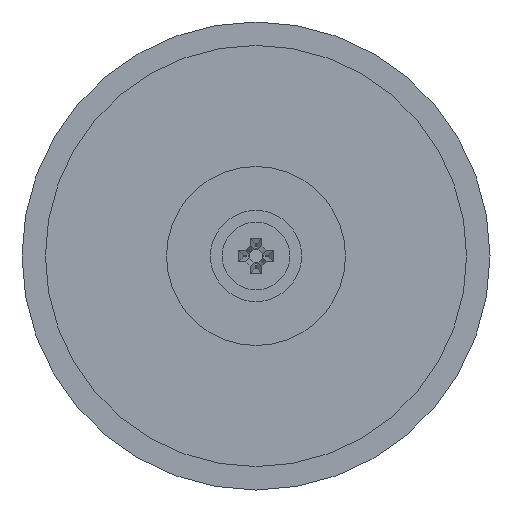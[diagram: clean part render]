
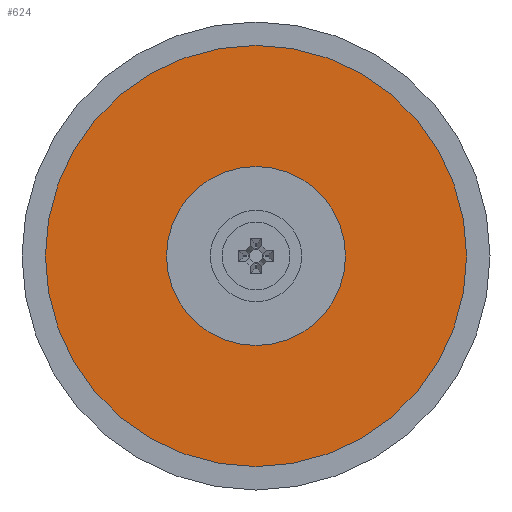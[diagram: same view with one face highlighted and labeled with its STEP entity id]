
A CAD part, front view. The second image highlights one B-rep face of the part: STEP entity #624.
In plain terms, the highlighted planar face has unit normal (0, -1, 0).
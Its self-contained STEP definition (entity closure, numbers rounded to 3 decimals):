
#230 = ORIENTED_EDGE ( 'NONE', *, *, #1284, .F. ) ;
#231 = ORIENTED_EDGE ( 'NONE', *, *, #984, .T. ) ;
#238 = ORIENTED_EDGE ( 'NONE', *, *, #1279, .T. ) ;
#270 = ORIENTED_EDGE ( 'NONE', *, *, #1175, .F. ) ;
#287 = VERTEX_POINT ( 'NONE', #366 ) ;
#288 = VERTEX_POINT ( 'NONE', #342 ) ;
#289 = VERTEX_POINT ( 'NONE', #345 ) ;
#317 = CARTESIAN_POINT ( 'NONE',  ( 7.65, 0., 0. ) ) ;
#342 = CARTESIAN_POINT ( 'NONE',  ( -7.65, 0., 0. ) ) ;
#345 = CARTESIAN_POINT ( 'NONE',  ( 18., 0., 0. ) ) ;
#366 = CARTESIAN_POINT ( 'NONE',  ( -18., 0., 0. ) ) ;
#378 = EDGE_LOOP ( 'NONE', ( #270, #230 ) ) ;
#386 = EDGE_LOOP ( 'NONE', ( #238, #231 ) ) ;
#548 = VERTEX_POINT ( 'NONE', #317 ) ;
#566 = FACE_BOUND ( 'NONE', #386, .T. ) ;
#570 = FACE_OUTER_BOUND ( 'NONE', #378, .T. ) ;
#624 = ADVANCED_FACE ( 'NONE', ( #566, #570 ), #1089, .T. ) ;
#666 = CARTESIAN_POINT ( 'NONE',  ( 0., 0., 0. ) ) ;
#667 = DIRECTION ( 'NONE',  ( 0., 1., 0. ) ) ;
#668 = DIRECTION ( 'NONE',  ( -1., 0., 0. ) ) ;
#777 = AXIS2_PLACEMENT_3D ( 'NONE', #1057, #1100, #1097 ) ;
#857 = CARTESIAN_POINT ( 'NONE',  ( 0., 0., 0. ) ) ;
#858 = DIRECTION ( 'NONE',  ( 0., 1., 0. ) ) ;
#859 = DIRECTION ( 'NONE',  ( -1., 0., 0. ) ) ;
#871 = CARTESIAN_POINT ( 'NONE',  ( 0., 0., 0. ) ) ;
#872 = DIRECTION ( 'NONE',  ( 0., 1., 0. ) ) ;
#873 = DIRECTION ( 'NONE',  ( -1., 0., 0. ) ) ;
#984 = EDGE_CURVE ( 'NONE', #548, #288, #1540, .T. ) ;
#1057 = CARTESIAN_POINT ( 'NONE',  ( -7.65, 0., 0. ) ) ;
#1089 = PLANE ( 'NONE',  #777 ) ;
#1097 = DIRECTION ( 'NONE',  ( 1., 0., 0. ) ) ;
#1100 = DIRECTION ( 'NONE',  ( 0., -1., 0. ) ) ;
#1175 = EDGE_CURVE ( 'NONE', #287, #289, #1579, .T. ) ;
#1279 = EDGE_CURVE ( 'NONE', #288, #548, #1408, .T. ) ;
#1284 = EDGE_CURVE ( 'NONE', #289, #287, #1417, .T. ) ;
#1408 = CIRCLE ( 'NONE', #1890, 7.65 ) ;
#1417 = CIRCLE ( 'NONE', #1892, 18. ) ;
#1540 = CIRCLE ( 'NONE', #1833, 7.65 ) ;
#1579 = CIRCLE ( 'NONE', #1861, 18. ) ;
#1736 = DIRECTION ( 'NONE',  ( 0., 1., 0. ) ) ;
#1747 = CARTESIAN_POINT ( 'NONE',  ( 0., 0., 0. ) ) ;
#1754 = DIRECTION ( 'NONE',  ( -1., 0., 0. ) ) ;
#1833 = AXIS2_PLACEMENT_3D ( 'NONE', #1747, #1736, #1754 ) ;
#1861 = AXIS2_PLACEMENT_3D ( 'NONE', #666, #667, #668 ) ;
#1890 = AXIS2_PLACEMENT_3D ( 'NONE', #857, #858, #859 ) ;
#1892 = AXIS2_PLACEMENT_3D ( 'NONE', #871, #872, #873 ) ;
